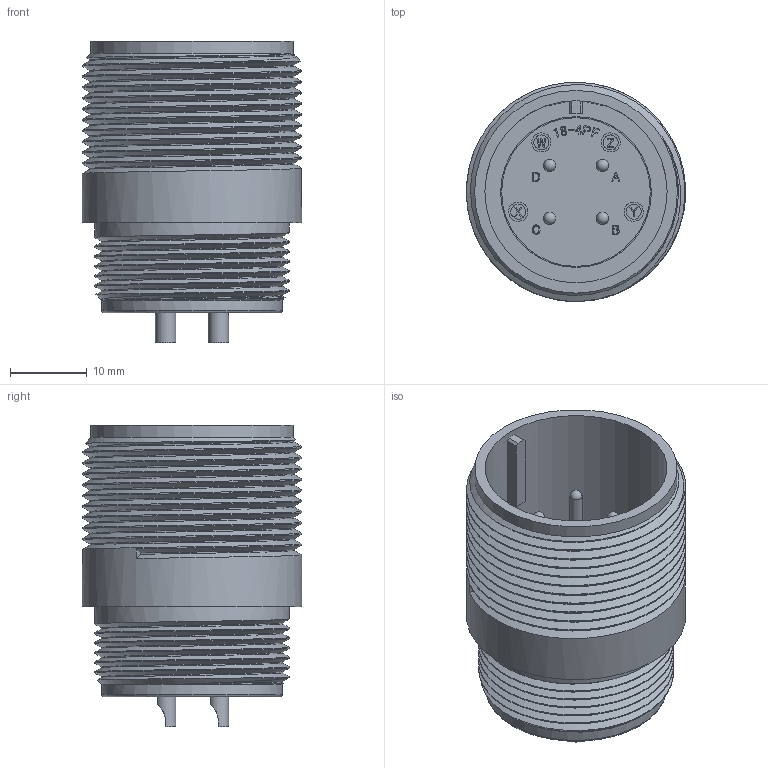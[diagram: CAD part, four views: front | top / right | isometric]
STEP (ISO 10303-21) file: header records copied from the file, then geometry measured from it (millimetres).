
FILE_DESCRIPTION (( 'STEP AP203' ), '1' );
FILE_NAME ('DMS3101A18-4P(D263).STEP', '2022-01-28T01:52:18', ( '' ), ( '' ), 'SwSTEP 2.0', 'SolidWorks 2018', '' );
FILE_SCHEMA (( 'CONFIG_CONTROL_DESIGN' ));
Length unit declared in the file: millimetre
Products named in the file (1): DMS3101A18-4P(D263)
Bounding box: 28.48 x 28.48 x 39.2 mm (x, y, z)
Volume: 10475.3 mm3; surface area: 8236.1 mm2
Topology: 1 solids, 1 shells, 615 faces, 1627 edges, 1075 vertices
Faces by surface type: plane 302, bspline 241, cylinder 60, torus 6, sphere 4, cone 2
Full cylindrical faces by diameter (mm): 1.59 x4, 17.45 x1, 19.33 x1, 19.59 x1, 21.08 x1, 23.5 x1, 23.68 x1, 25.31 x6, 26.35 x1, 28.48 x10
Entity records: 28164 total; most frequent: CARTESIAN_POINT 15089, ORIENTED_EDGE 3092, DIRECTION 1835, EDGE_CURVE 1546, VERTEX_POINT 1034, VECTOR 953, LINE 953, EDGE_LOOP 684
